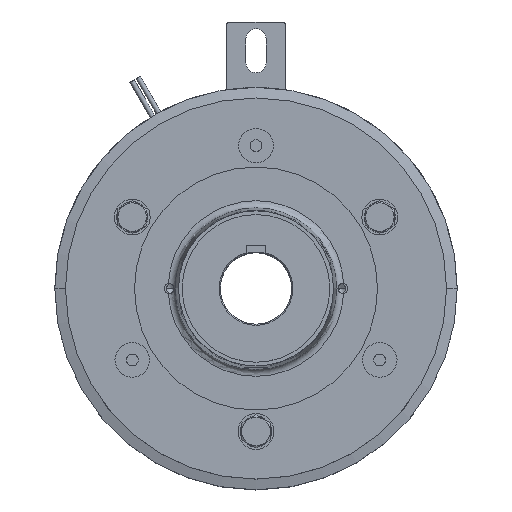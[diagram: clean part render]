
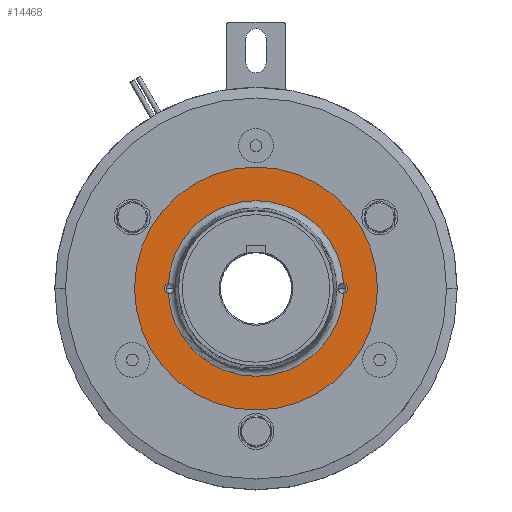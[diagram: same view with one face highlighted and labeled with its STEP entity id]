
A CAD part, top view. The second image highlights one B-rep face of the part: STEP entity #14468.
In plain terms, the highlighted planar face has unit normal (0, 0, 1).
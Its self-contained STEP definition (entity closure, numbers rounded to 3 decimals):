
#1090 = VERTEX_POINT ( 'NONE', #5979 ) ;
#1265 = VERTEX_POINT ( 'NONE', #6057 ) ;
#1599 = ORIENTED_EDGE ( 'NONE', *, *, #11508, .T. ) ;
#1630 = VERTEX_POINT ( 'NONE', #6158 ) ;
#1631 = VERTEX_POINT ( 'NONE', #6160 ) ;
#1763 = ORIENTED_EDGE ( 'NONE', *, *, #13979, .F. ) ;
#1802 = ORIENTED_EDGE ( 'NONE', *, *, #11590, .F. ) ;
#1847 = ORIENTED_EDGE ( 'NONE', *, *, #11551, .F. ) ;
#1937 = ORIENTED_EDGE ( 'NONE', *, *, #11555, .F. ) ;
#2013 = ORIENTED_EDGE ( 'NONE', *, *, #11410, .T. ) ;
#2015 = ORIENTED_EDGE ( 'NONE', *, *, #14380, .F. ) ;
#2016 = ORIENTED_EDGE ( 'NONE', *, *, #11514, .F. ) ;
#2247 = CIRCLE ( 'NONE', #7685, 2.1 ) ;
#3916 = CARTESIAN_POINT ( 'NONE',  ( 36.5, 0., 52.7 ) ) ;
#3917 = DIRECTION ( 'NONE',  ( 0., 0., 1. ) ) ;
#3918 = DIRECTION ( 'NONE',  ( 1., 0., 0. ) ) ;
#4610 = PLANE ( 'NONE',  #12147 ) ;
#4622 = CARTESIAN_POINT ( 'NONE',  ( 0., 0., 52.7 ) ) ;
#4623 = DIRECTION ( 'NONE',  ( 0., 0., 1. ) ) ;
#4624 = DIRECTION ( 'NONE',  ( 1., 0., 0. ) ) ;
#5979 = CARTESIAN_POINT ( 'NONE',  ( 38.6, 0., 52.7 ) ) ;
#6057 = CARTESIAN_POINT ( 'NONE',  ( -36.812, -2.077, 52.7 ) ) ;
#6158 = CARTESIAN_POINT ( 'NONE',  ( -38.6, 0., 52.7 ) ) ;
#6160 = CARTESIAN_POINT ( 'NONE',  ( 36.812, -2.077, 52.7 ) ) ;
#6564 = CARTESIAN_POINT ( 'NONE',  ( -36.5, 0., 52.7 ) ) ;
#6565 = DIRECTION ( 'NONE',  ( 0., 0., 1. ) ) ;
#6566 = DIRECTION ( 'NONE',  ( 1., 0., 0. ) ) ;
#6885 = AXIS2_PLACEMENT_3D ( 'NONE', #13443, #13422, #13408 ) ;
#7084 = AXIS2_PLACEMENT_3D ( 'NONE', #10352, #10351, #10344 ) ;
#7216 = AXIS2_PLACEMENT_3D ( 'NONE', #13406, #13665, #13480 ) ;
#7228 = AXIS2_PLACEMENT_3D ( 'NONE', #13327, #13329, #13363 ) ;
#7242 = AXIS2_PLACEMENT_3D ( 'NONE', #10294, #10293, #10292 ) ;
#7269 = AXIS2_PLACEMENT_3D ( 'NONE', #10916, #10870, #10939 ) ;
#7685 = AXIS2_PLACEMENT_3D ( 'NONE', #3916, #3917, #3918 ) ;
#8383 = EDGE_LOOP ( 'NONE', ( #1847, #2016 ) ) ;
#8512 = VERTEX_POINT ( 'NONE', #15172 ) ;
#8563 = VERTEX_POINT ( 'NONE', #15023 ) ;
#8590 = VERTEX_POINT ( 'NONE', #15174 ) ;
#8602 = EDGE_LOOP ( 'NONE', ( #2015, #2013, #1763, #1802, #1599, #1937 ) ) ;
#8666 = VERTEX_POINT ( 'NONE', #15176 ) ;
#9519 = CIRCLE ( 'NONE', #7242, 36.87 ) ;
#9526 = CIRCLE ( 'NONE', #7084, 51. ) ;
#9760 = CIRCLE ( 'NONE', #6885, 51. ) ;
#9795 = CIRCLE ( 'NONE', #7216, 2.1 ) ;
#9813 = CIRCLE ( 'NONE', #7269, 36.87 ) ;
#9930 = CIRCLE ( 'NONE', #7228, 2.1 ) ;
#10292 = DIRECTION ( 'NONE',  ( 1., 0., 0. ) ) ;
#10293 = DIRECTION ( 'NONE',  ( 0., 0., -1. ) ) ;
#10294 = CARTESIAN_POINT ( 'NONE',  ( 0., 0., 52.7 ) ) ;
#10344 = DIRECTION ( 'NONE',  ( 1., 0., 0. ) ) ;
#10351 = DIRECTION ( 'NONE',  ( 0., 0., -1. ) ) ;
#10352 = CARTESIAN_POINT ( 'NONE',  ( 0., 0., 52.7 ) ) ;
#10539 = AXIS2_PLACEMENT_3D ( 'NONE', #6564, #6565, #6566 ) ;
#10870 = DIRECTION ( 'NONE',  ( 0., 0., -1. ) ) ;
#10916 = CARTESIAN_POINT ( 'NONE',  ( 0., 0., 52.7 ) ) ;
#10939 = DIRECTION ( 'NONE',  ( 1., 0., 0. ) ) ;
#11410 = EDGE_CURVE ( 'NONE', #1631, #1265, #9813, .T. ) ;
#11508 = EDGE_CURVE ( 'NONE', #8512, #8666, #9519, .T. ) ;
#11514 = EDGE_CURVE ( 'NONE', #8590, #8563, #9526, .T. ) ;
#11551 = EDGE_CURVE ( 'NONE', #8563, #8590, #9760, .T. ) ;
#11555 = EDGE_CURVE ( 'NONE', #1090, #8666, #9795, .T. ) ;
#11590 = EDGE_CURVE ( 'NONE', #8512, #1630, #9930, .T. ) ;
#11687 = FACE_BOUND ( 'NONE', #8602, .T. ) ;
#11731 = FACE_OUTER_BOUND ( 'NONE', #8383, .T. ) ;
#12147 = AXIS2_PLACEMENT_3D ( 'NONE', #4622, #4623, #4624 ) ;
#13327 = CARTESIAN_POINT ( 'NONE',  ( -36.5, 0., 52.7 ) ) ;
#13329 = DIRECTION ( 'NONE',  ( 0., 0., 1. ) ) ;
#13363 = DIRECTION ( 'NONE',  ( 1., 0., 0. ) ) ;
#13406 = CARTESIAN_POINT ( 'NONE',  ( 36.5, 0., 52.7 ) ) ;
#13408 = DIRECTION ( 'NONE',  ( 1., 0., 0. ) ) ;
#13422 = DIRECTION ( 'NONE',  ( 0., 0., -1. ) ) ;
#13443 = CARTESIAN_POINT ( 'NONE',  ( 0., 0., 52.7 ) ) ;
#13480 = DIRECTION ( 'NONE',  ( 1., 0., 0. ) ) ;
#13665 = DIRECTION ( 'NONE',  ( 0., 0., 1. ) ) ;
#13979 = EDGE_CURVE ( 'NONE', #1630, #1265, #14813, .T. ) ;
#14380 = EDGE_CURVE ( 'NONE', #1631, #1090, #2247, .T. ) ;
#14468 = ADVANCED_FACE ( 'NONE', ( #11687, #11731 ), #4610, .T. ) ;
#14813 = CIRCLE ( 'NONE', #10539, 2.1 ) ;
#15023 = CARTESIAN_POINT ( 'NONE',  ( -51., 0., 52.7 ) ) ;
#15172 = CARTESIAN_POINT ( 'NONE',  ( -36.812, 2.077, 52.7 ) ) ;
#15174 = CARTESIAN_POINT ( 'NONE',  ( 51., 0., 52.7 ) ) ;
#15176 = CARTESIAN_POINT ( 'NONE',  ( 36.812, 2.077, 52.7 ) ) ;
